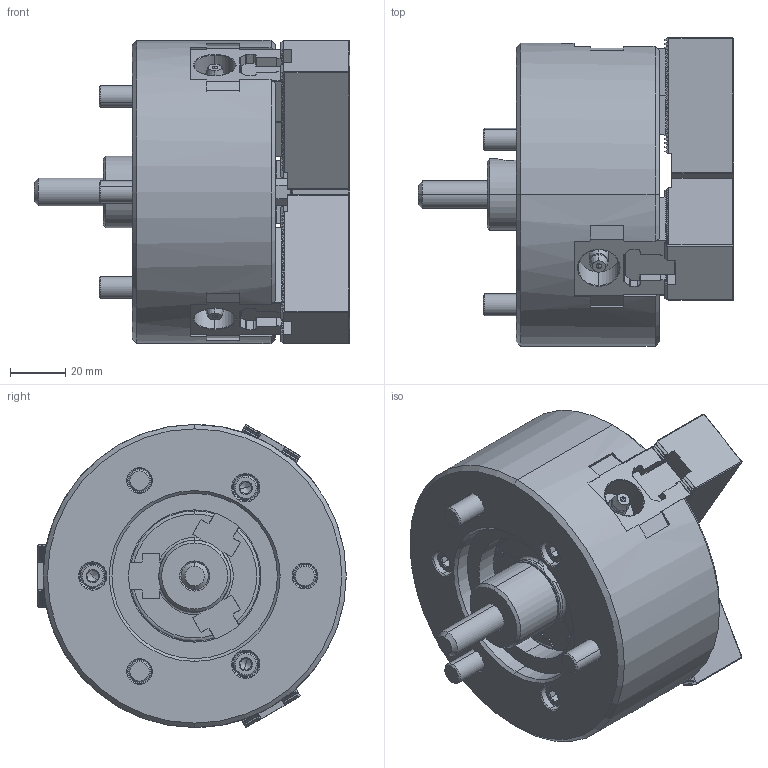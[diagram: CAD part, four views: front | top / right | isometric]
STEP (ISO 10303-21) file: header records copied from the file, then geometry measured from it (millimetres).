
FILE_DESCRIPTION (( 'STEP AP214' ), '1' );
FILE_NAME ('DT1_N-04_OUTSIDE_VIEW_HCL.STEP', '2026-03-13T01:35:07', ( '' ), ( '' ), 'SwSTEP 2.0', 'SolidWorks 2022', '' );
FILE_SCHEMA (( 'AUTOMOTIVE_DESIGN' ));
Length unit declared in the file: millimetre
Products named in the file (10): DT1_N-04_M8x22^DT1_N-04; DT1_N-04_M8x55^DT1_N-04; DT1_N-04_BASE^DT1_N-04; DT1_N-04_TNUT^DT1_N-04; DT1_N-04_COVER^DT1_N-04; DT1_N-04_DRAWSCREW^DT1_N-04; DT1_N-04_OUTSIDE_VIEW_HCL; DT1_N-04_DN^DT1_N-04; DT1_N-04_M3x8^DT1_N-04; DT1_N-04_SOFTJAW^DT1_N-04
Assembly tree (22 placements, depth 2):
  DT1_N-04_OUTSIDE_VIEW_HCL
    DT1_N-04_SOFTJAW^DT1_N-04  x3
    DT1_N-04_TNUT^DT1_N-04  x3
    DT1_N-04_COVER^DT1_N-04
    DT1_N-04_DRAWSCREW^DT1_N-04
    DT1_N-04_DN^DT1_N-04
    DT1_N-04_BASE^DT1_N-04
    DT1_N-04_M8x22^DT1_N-04  x6
    DT1_N-04_M8x55^DT1_N-04  x3
    DT1_N-04_M3x8^DT1_N-04  x3
Bounding box: 114.55 x 111.94 x 110 mm (x, y, z)
Volume: 544734.4 mm3; surface area: 113593.3 mm2
Topology: 22 solids, 22 shells, 3341 faces, 9020 edges, 5778 vertices
Faces by surface type: plane 2216, cylinder 715, cone 258, bspline 90, torus 56, sphere 6
Entity records: 76568 total; most frequent: CARTESIAN_POINT 19297, ORIENTED_EDGE 12580, DIRECTION 10658, EDGE_CURVE 6290, VECTOR 4724, LINE 4724, VERTEX_POINT 4081, AXIS2_PLACEMENT_3D 2967
